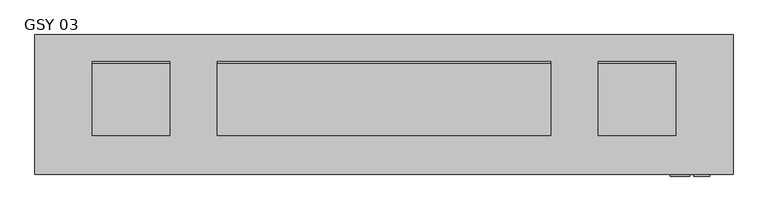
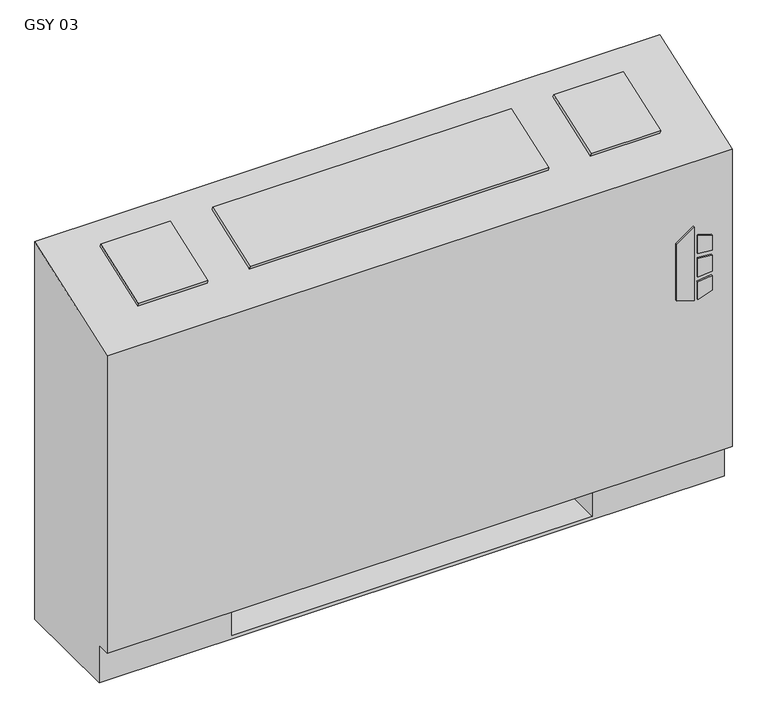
"""IFC4 building model written with IfcOpenShell, lengths in millimetres: proxy geometry, Vertical_Fan_Coil_Unit_-_GSY_-_IEC_-_2-Pipe_TS-FR_RH_2022 : GSY 03."""

import ifcopenshell
import ifcopenshell.guid

model = None  # the IFC model being written
_history = None  # IfcOwnerHistory: only IFC2X3 demands one
_inside = {}  # id of a spatial element -> (the spatial element, [elements in it])
_under = {}  # id of a project, library or spatial element -> (it, [spatial elements below it])
_declared = {}  # id of a project -> (the project, [libraries it declares])
_typed = {}  # id of a type object -> (the type object, [elements of that type])
_made_of = {}  # id of a material, layer set ... -> (it, [elements and type objects made of it])


def new_model(schema):
    """Start an empty IFC model of exactly this schema.

    Asked for "IFC4X3", IfcOpenShell would pick the latest addendum, in which some entities
    have other attributes; the version numbers below select the first issue.
    IFC2X3 requires an IfcOwnerHistory on every rooted entity: one is made here for all.
    """
    global model, _history
    if schema == "IFC4X3":
        model = ifcopenshell.file(schema_version=(4, 3, 0, 0))
    else:
        model = ifcopenshell.file(schema=schema)
    _inside.clear()
    _under.clear()
    _declared.clear()
    _typed.clear()
    _made_of.clear()
    _history = None
    if model.schema == "IFC2X3":
        org = make("IfcOrganization", Name="unknown")
        user = make(
            "IfcPersonAndOrganization",
            ThePerson=make("IfcPerson", FamilyName="unknown"),
            TheOrganization=org,
        )
        app = make(
            "IfcApplication",
            ApplicationDeveloper=org,
            Version="unknown",
            ApplicationFullName="unknown",
            ApplicationIdentifier="unknown",
        )
        _history = make(
            "IfcOwnerHistory",
            OwningUser=user,
            OwningApplication=app,
            ChangeAction="ADDED",
            CreationDate=0,
        )
    return model


def make(cls, **values):
    """One entity of the class cls with the attributes given. An attribute that is None is left unset."""
    return model.create_entity(
        cls, **{name: value for name, value in values.items() if value is not None}
    )


def rooted(cls, **values):
    """An entity with a GlobalId (a new one), such as an element, a storey or a relation."""
    return make(cls, GlobalId=ifcopenshell.guid.new(), OwnerHistory=_history, **values)


def si_unit(unit_type, name, prefix=None):
    """IfcSIUnit, for example si_unit("LENGTHUNIT", "METRE", prefix="MILLI")."""
    return make("IfcSIUnit", UnitType=unit_type, Prefix=prefix, Name=name)


def assignment(units):
    """IfcUnitAssignment: the units of a project."""
    return None if units is None else make("IfcUnitAssignment", Units=units)


def point(xyz):
    """IfcCartesianPoint."""
    return None if xyz is None else make("IfcCartesianPoint", Coordinates=xyz)


def direction(xyz):
    """IfcDirection."""
    return None if xyz is None else make("IfcDirection", DirectionRatios=xyz)


def frame(location, z_axis=None, x_axis=None):
    """IfcAxis2Placement3D, a coordinate frame: its origin and axes. An axis left out is left unset."""
    return make(
        "IfcAxis2Placement3D",
        Location=point(location),
        Axis=direction(z_axis),
        RefDirection=direction(x_axis),
    )


def frame_2d(location, x_axis=None):
    """IfcAxis2Placement2D, a coordinate frame in the plane: its origin and x axis."""
    return make(
        "IfcAxis2Placement2D", Location=point(location), RefDirection=direction(x_axis)
    )


def origin():
    """The frame at (0, 0, 0) with its axes left unset."""
    return frame((0.0, 0.0, 0.0))


def place(relative_to, where):
    """IfcLocalPlacement: puts the frame where relative to a parent placement (None: the world)."""
    return make(
        "IfcLocalPlacement", PlacementRelTo=relative_to, RelativePlacement=where
    )


def context(
    kind, dimensions, precision=None, world=None, true_north=None, identifier=None
):
    """IfcGeometricRepresentationContext, for example the 3D "Model" context."""
    return make(
        "IfcGeometricRepresentationContext",
        ContextIdentifier=identifier,
        ContextType=kind,
        CoordinateSpaceDimension=dimensions,
        Precision=precision,
        WorldCoordinateSystem=world,
        TrueNorth=true_north,
    )


def project(units=None, contexts=None):
    """IfcProject with its units and contexts."""
    return rooted(
        "IfcProject",
        Name="project",
        RepresentationContexts=contexts,
        UnitsInContext=assignment(units),
    )


def spatial(cls, under=None, at=None, **own):
    """A site, building, storey or space (cls), placed at a placement, below another one or the project."""
    s = rooted(cls, ObjectPlacement=at, **own)
    if under is not None:
        _under.setdefault(under.id(), (under, []))[1].append(s)
    return s


def polyline(points):
    """IfcPolyline through the points."""
    return make("IfcPolyline", Points=[point(p) for p in points])


def circle_curve(where, radius):
    """IfcCircle in the frame where."""
    return make("IfcCircle", Position=where, Radius=radius)


def trimmed(basis, trim1, trim2, sense, master):
    """IfcTrimmedCurve: the piece of a basis curve between two trims."""
    return make(
        "IfcTrimmedCurve",
        BasisCurve=basis,
        Trim1=trim1,
        Trim2=trim2,
        SenseAgreement=sense,
        MasterRepresentation=master,
    )


def segment(curve, same_sense, transition):
    """IfcCompositeCurveSegment."""
    return make(
        "IfcCompositeCurveSegment",
        Transition=transition,
        SameSense=same_sense,
        ParentCurve=curve,
    )


def composite_curve(segments, self_intersect=None):
    """IfcCompositeCurve: segments joined end to end."""
    return make("IfcCompositeCurve", Segments=segments, SelfIntersect=self_intersect)


def outline(outer, holes=None, kind="AREA"):
    """IfcArbitraryClosedProfileDef: a profile drawn as a closed curve; with holes, ...WithVoids."""
    if holes is None:
        return make("IfcArbitraryClosedProfileDef", ProfileType=kind, OuterCurve=outer)
    return make(
        "IfcArbitraryProfileDefWithVoids",
        ProfileType=kind,
        OuterCurve=outer,
        InnerCurves=holes,
    )


def extrude(swept, where, along, depth):
    """IfcExtrudedAreaSolid: the profile swept, set in the frame where, extruded along a direction by depth."""
    return make(
        "IfcExtrudedAreaSolid",
        SweptArea=swept,
        Position=where,
        ExtrudedDirection=direction(along),
        Depth=depth,
    )


def shape(context_of_items, identifier, shape_type, items):
    """IfcShapeRepresentation: the items that make up one representation, for example the "Body"."""
    return make(
        "IfcShapeRepresentation",
        ContextOfItems=context_of_items,
        RepresentationIdentifier=identifier,
        RepresentationType=shape_type,
        Items=items,
    )


def source(mapping_origin, context_of_items, identifier, shape_type, items):
    """IfcRepresentationMap: a shape defined once, which mapped items show again and again."""
    return make(
        "IfcRepresentationMap",
        MappingOrigin=mapping_origin,
        MappedRepresentation=shape(context_of_items, identifier, shape_type, items),
    )


def transform(
    local_origin,
    x_axis=None,
    y_axis=None,
    z_axis=None,
    scale=None,
    scale2=None,
    scale3=None,
    uniform=True,
):
    """IfcCartesianTransformationOperator3D, or its non-uniform kind. x_axis, y_axis, z_axis: its Axis1, 2, 3."""
    if uniform:
        return make(
            "IfcCartesianTransformationOperator3D",
            Axis1=direction(x_axis),
            Axis2=direction(y_axis),
            LocalOrigin=point(local_origin),
            Scale=scale,
            Axis3=direction(z_axis),
        )
    return make(
        "IfcCartesianTransformationOperator3DnonUniform",
        Axis1=direction(x_axis),
        Axis2=direction(y_axis),
        LocalOrigin=point(local_origin),
        Scale=scale,
        Axis3=direction(z_axis),
        Scale2=scale2,
        Scale3=scale3,
    )


def mapped(mapping_source, mapping_target):
    """IfcMappedItem: shows the shape of a source again, moved by a transform."""
    return make(
        "IfcMappedItem", MappingSource=mapping_source, MappingTarget=mapping_target
    )


def made_of(thing, what):
    """Note that an element or type object is made of a material, layer set ...; save() writes the relation."""
    if what is not None:
        _made_of.setdefault(what.id(), (what, []))[1].append(thing)
    return thing


def element(
    cls,
    number,
    at=None,
    inside=None,
    cuts=None,
    type_object=None,
    material=None,
    context=None,
    identifier="Body",
    shape_type=None,
    held_by="IfcProductDefinitionShape",
    body=None,
    shapes=None,
    **own,
):
    """One element of the class cls, such as IfcWall. Its Tag is "e" and its number.

    at: its placement. inside: the storey or other place that contains it. cuts: it is an
    opening in that element (IfcRelVoidsElement). A single representation is given by context,
    identifier, shape_type and body (its items); several are given by shapes. held_by: the class
    of the entity that holds the representations. save() writes the other relations.
    """
    e = rooted(cls, Tag="e%d" % number, ObjectPlacement=at, **own)
    if body is not None:
        shapes = [shape(context, identifier, shape_type, body)]
    if shapes is not None:
        e.Representation = make(held_by, Representations=shapes)
    if inside is not None:
        _inside.setdefault(inside.id(), (inside, []))[1].append(e)
    if cuts is not None:
        rooted(
            "IfcRelVoidsElement", RelatingBuildingElement=cuts, RelatedOpeningElement=e
        )
    if type_object is not None:
        _typed.setdefault(type_object.id(), (type_object, []))[1].append(e)
    return made_of(e, material)


def aggregate(whole, parts):
    """IfcRelAggregates: a whole, such as a stair, and the parts it consists of."""
    return rooted("IfcRelAggregates", RelatingObject=whole, RelatedObjects=parts)


def save(model, path):
    """Write the relations noted so far, then the file.

    IfcRelAggregates (storeys below a building ...), IfcRelContainedInSpatialStructure (elements
    in a storey), IfcRelDefinesByType, IfcRelAssociatesMaterial and IfcRelDeclares: one each for
    every whole, place, type object, material and project.
    """
    for whole, parts in _under.values():
        aggregate(whole, parts)
    for where, things in _inside.values():
        rooted(
            "IfcRelContainedInSpatialStructure",
            RelatedElements=things,
            RelatingStructure=where,
        )
    for kind, things in _typed.values():
        rooted("IfcRelDefinesByType", RelatedObjects=things, RelatingType=kind)
    for what, things in _made_of.values():
        rooted("IfcRelAssociatesMaterial", RelatedObjects=things, RelatingMaterial=what)
    for by, libraries in _declared.values():
        rooted("IfcRelDeclares", RelatingContext=by, RelatedDefinitions=libraries)
    model.write(path)


def plane_surface(at):
    """IfcPlane: the flat surface through the origin of the frame at, square to its z axis."""
    return make("IfcPlane", Position=at)


def revolved_surface(curve, axis_point, axis_direction):
    """IfcSurfaceOfRevolution: the curve turned about the line through axis_point along axis_direction."""
    return make(
        "IfcSurfaceOfRevolution",
        SweptCurve=make("IfcArbitraryOpenProfileDef", ProfileType="CURVE", Curve=curve),
        AxisPosition=make("IfcAxis1Placement", Location=point(axis_point), Axis=direction(axis_direction)),
    )


def advanced_brep(points, edges, surfaces, faces):
    """IfcAdvancedBrep: a solid bounded by faces that lie on surfaces and meet in shared edges.

    An edge is (start, end): straight between two places in points (the first is 0);
    or (start, end, curve); or (start, end, curve, False) where it runs against its curve.
    A face is (place in surfaces, loops), or (place, loops, False) where it looks against
    its surface's normal. A loop lists edges by number (the first is 1), with a minus sign
    where the edge is run from its end to its start. The first loop is the outer one.
    """
    corners = [point(p) for p in points]
    vertices = [make("IfcVertexPoint", VertexGeometry=c) for c in corners]
    made = []
    for start, end, *more in edges:
        made.append(
            make(
                "IfcEdgeCurve",
                EdgeStart=vertices[start],
                EdgeEnd=vertices[end],
                EdgeGeometry=more[0] if more else make("IfcPolyline", Points=[corners[start], corners[end]]),
                SameSense=more[1] if len(more) > 1 else True,
            )
        )
    hull = []
    for where, loops, *sense in faces:
        bounds = []
        for j, loop in enumerate(loops):
            ring = [make("IfcOrientedEdge", EdgeElement=made[abs(k) - 1], Orientation=k > 0) for k in loop]
            bounds.append(
                make(
                    "IfcFaceOuterBound" if j == 0 else "IfcFaceBound",
                    Bound=make("IfcEdgeLoop", EdgeList=ring),
                    Orientation=True,
                )
            )
        hull.append(make("IfcAdvancedFace", Bounds=bounds, FaceSurface=surfaces[where], SameSense=sense[0] if sense else True))
    return make("IfcAdvancedBrep", Outer=make("IfcClosedShell", CfsFaces=hull))


def gsy_03_d9d8826f(model_context):
    return source(origin(), model_context, "Body", "SolidModel", [
        extrude(outline(polyline([(391.6086829, 620.7868862), (381.6606126, 652.9602728), (523.831537, 652.9602728), (500.8095309, 620.7868862), (391.6086829, 620.7868862)])), frame((0.0, 12.7, 0.0), z_axis=(0.0, 1.0, 0.0), x_axis=(0.0, 0.0, 1.0)), (0.0, 0.0, 1.0), 3.175),
        extrude(outline(polyline([(470.6079683, 659.7186058), (467.4055757, 685.8), (496.6344168, 685.8), (504.6988318, 659.7186058), (470.6079683, 659.7186058)])), frame((0.0, 12.7, 0.0), z_axis=(0.0, 1.0, 0.0), x_axis=(0.0, 0.0, 1.0)), (0.0, 0.0, 1.0), 3.175),
        extrude(outline(polyline([(418.7444414, 685.8), (415.0789404, 659.7186058), (381.6606126, 659.7186058), (390.2948498, 685.8), (418.7444414, 685.8)])), frame((0.0, 12.7, 0.0), z_axis=(0.0, 1.0, 0.0), x_axis=(0.0, 0.0, 1.0)), (0.0, 0.0, 1.0), 3.175),
        extrude(outline(polyline([(458.0596028, 685.8), (460.3414292, 659.7186058), (424.4038806, 659.7186058), (427.1451456, 685.8), (458.0596028, 685.8)])), frame((0.0, 12.7, 0.0), z_axis=(0.0, 1.0, 0.0), x_axis=(0.0, 0.0, 1.0)), (0.0, 0.0, 1.0), 3.175),
        extrude(outline(polyline([(0.0, -126.2347031), (0.0, 0.0), (127.0, 0.0), (127.0, -126.2347031), (0.0, -126.2347031)])), frame((-324.993, 200.4217127, 714.3418685), z_axis=(0.0, -0.33964446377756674, 0.9405538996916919), x_axis=(1.0, 0.0, 0.0)), (0.0, 0.0, 1.0), 6.35),
        extrude(outline(polyline([(0.0, -126.2347031), (0.0, 0.0), (546.1, 0.0), (546.1, -126.2347031), (0.0, -126.2347031)])), frame((425.45, 81.6911704, 671.4669504), z_axis=(0.0, -0.3396444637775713, 0.9405538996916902), x_axis=(-1.0, 0.0, 0.0)), (0.0, 0.0, 1.0), 6.35),
        extrude(outline(polyline([(0.0, -126.2347031), (0.0, 0.0), (127.0, 0.0), (127.0, -126.2347031), (0.0, -126.2347031)])), frame((629.793, 81.6911704, 671.4669504), z_axis=(0.0, -0.3396444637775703, 0.9405538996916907), x_axis=(-1.0, 0.0, 0.0)), (0.0, 0.0, 1.0), 6.35),
        extrude(outline(polyline([(-298.45, 81.534), (-298.45, 223.266), (-127.0, 223.266), (-127.0, 81.534), (-298.45, 81.534)])), frame((0.0, 0.0, 327.025), z_axis=(0.0, 0.0, 1.0), x_axis=(1.0, 0.0, 0.0)), (0.0, 0.0, 1.0), 260.35),
        extrude(outline(composite_curve([segment(trimmed(circle_curve(frame_2d((80.645, 397.002)), 7.9375), [point((80.645, 404.9395))], [point((80.645, 389.0645))], False, "CARTESIAN"), True, "CONTINUOUS"), segment(trimmed(circle_curve(frame_2d((80.645, 397.002)), 7.9375), [point((80.645, 389.0645))], [point((80.645, 404.9395))], False, "CARTESIAN"), True, "CONTINUOUS")], self_intersect=False)), frame((482.6, 0.0, 0.0), z_axis=(1.0, 0.0, 0.0), x_axis=(0.0, 1.0, 0.0)), (0.0, 0.0, 1.0), 50.8),
        extrude(outline(composite_curve([segment(trimmed(circle_curve(frame_2d((156.8958, 535.8892)), 7.9375), [point((156.8958, 543.8267))], [point((156.8958, 527.9517))], False, "CARTESIAN"), True, "CONTINUOUS"), segment(trimmed(circle_curve(frame_2d((156.8958, 535.8892)), 7.9375), [point((156.8958, 527.9517))], [point((156.8958, 543.8267))], False, "CARTESIAN"), True, "CONTINUOUS")], self_intersect=False)), frame((482.6, 0.0, 0.0), z_axis=(1.0, 0.0, 0.0), x_axis=(0.0, 1.0, 0.0)), (0.0, 0.0, 1.0), 50.8),
        advanced_brep(
        [(-419.1, 244.475, 0.0), (723.9, 244.475, 0.0), (723.9, 41.275, 0.0), (-419.1, 41.275, 0.0), (-419.1, 244.475, 730.25), (723.9, 244.475, 730.25), (482.6, 244.475, 73.025), (711.2, 244.475, 73.025), (711.2, 244.475, 654.05), (482.6, 244.475, 654.05), (482.6, 244.475, 414.8650565), (511.175, 244.475, 414.8650565), (511.175, 244.475, 385.2349435), (482.6, 244.475, 385.2349435), (482.6, 244.475, 287.3375), (511.175, 244.475, 287.3375), (511.175, 244.475, 258.7625), (482.6, 244.475, 258.7625), (482.6, 244.475, 141.2875), (511.175, 244.475, 141.2875), (511.175, 244.475, 112.7125), (482.6, 244.475, 112.7125), (-177.8, 244.475, 654.05), (-406.4, 244.475, 654.05), (-406.4, 244.475, 73.025), (-177.8, 244.475, 73.025), (-177.8, 244.475, 112.7125), (-206.375, 244.475, 112.7125), (-206.375, 244.475, 141.2875), (-177.8, 244.475, 141.2875), (-177.8, 244.475, 258.7625), (-206.375, 244.475, 258.7625), (-206.375, 244.475, 287.3375), (-177.8, 244.475, 287.3375), (-177.8, 244.475, 385.2349435), (-206.375, 244.475, 385.2349435), (-206.375, 244.475, 414.8650565), (-177.8, 244.475, 414.8650565), (500.8626, 244.475, 127.0), (489.7374, 244.475, 127.0), (500.8626, 244.475, 400.05), (489.7374, 244.475, 400.05), (500.8626, 244.475, 273.05), (489.7374, 244.475, 273.05), (-184.9374, 244.475, 127.0), (-196.0626, 244.475, 127.0), (-184.9374, 244.475, 273.05), (-196.0626, 244.475, 273.05), (-184.9374, 244.475, 400.05), (-196.0626, 244.475, 400.05), (-419.1, 41.275, 73.025), (-419.1, 15.875, 73.025), (-419.1, 15.875, 647.7), (723.9, 15.875, 73.025), (723.9, 15.875, 647.7), (723.9, 41.275, 73.025), (-177.8, 41.275, 73.025), (-177.8, 225.425, 73.025), (482.6, 225.425, 73.025), (482.6, 41.275, 73.025), (482.6, 41.275, 6.35), (-177.8, 41.275, 6.35), (482.6, 41.275, 654.05), (711.2, 41.275, 654.05), (711.2, 41.275, 73.025), (482.6, 41.275, 73.025), (-177.8, 41.275, 654.05), (-177.8, 41.275, 73.025), (-406.4, 41.275, 73.025), (-406.4, 41.275, 654.05), (482.6, 225.425, 73.025), (482.6, 238.125, 112.7125), (482.6, 238.125, 141.2875), (482.6, 238.125, 258.7625), (482.6, 238.125, 287.3375), (482.6, 238.125, 385.2349435), (482.6, 238.125, 414.8650565), (-177.8, 225.425, 73.025), (-177.8, 238.125, 414.8650565), (-177.8, 238.125, 385.2349435), (-177.8, 238.125, 287.3375), (-177.8, 238.125, 258.7625), (-177.8, 238.125, 141.2875), (-177.8, 238.125, 112.7125), (-177.8, 225.425, 6.35), (482.6, 225.425, 6.35), (511.175, 238.125, 112.7125), (511.175, 238.125, 141.2875), (489.7374, 238.125, 127.0), (500.8626, 238.125, 127.0), (511.175, 238.125, 258.7625), (511.175, 238.125, 287.3375), (489.7374, 238.125, 273.05), (500.8626, 238.125, 273.05), (511.175, 238.125, 385.2349435), (511.175, 238.125, 414.8650565), (489.7374, 238.125, 400.05), (500.8626, 238.125, 400.05), (-206.375, 238.125, 141.2875), (-206.375, 238.125, 112.7125), (-196.0626, 238.125, 127.0), (-184.9374, 238.125, 127.0), (-206.375, 238.125, 287.3375), (-206.375, 238.125, 258.7625), (-196.0626, 238.125, 273.05), (-184.9374, 238.125, 273.05), (-206.375, 238.125, 414.8650565), (-206.375, 238.125, 385.2349435), (-196.0626, 238.125, 400.05), (-184.9374, 238.125, 400.05)],
        [
            (0, 1),
            (1, 2),
            (2, 3),
            (3, 0),
            (0, 4),
            (4, 5),
            (5, 1),
            (6, 7),
            (7, 8),
            (8, 9),
            (9, 10),
            (10, 11),
            (11, 12),
            (12, 13),
            (13, 14),
            (14, 15),
            (15, 16),
            (16, 17),
            (17, 18),
            (18, 19),
            (19, 20),
            (20, 21),
            (21, 6),
            (22, 23),
            (23, 24),
            (24, 25),
            (25, 26),
            (26, 27),
            (27, 28),
            (28, 29),
            (29, 30),
            (30, 31),
            (31, 32),
            (32, 33),
            (33, 34),
            (34, 35),
            (35, 36),
            (36, 37),
            (37, 22),
            (38, 39, circle_curve(frame((495.3, 244.475, 127.0), z_axis=(0.0, -1.0, 0.0), x_axis=(-1.0, 0.0, 0.0)), 5.5626)),
            (39, 38, circle_curve(frame((495.3, 244.475, 127.0), z_axis=(0.0, -1.0, 0.0), x_axis=(-1.0, 0.0, 0.0)), 5.5626)),
            (40, 41, circle_curve(frame((495.3, 244.475, 400.05), z_axis=(0.0, -1.0, 0.0), x_axis=(-1.0, 0.0, 0.0)), 5.5626)),
            (41, 40, circle_curve(frame((495.3, 244.475, 400.05), z_axis=(0.0, -1.0, 0.0), x_axis=(-1.0, 0.0, 0.0)), 5.5626)),
            (42, 43, circle_curve(frame((495.3, 244.475, 273.05), z_axis=(0.0, -1.0, 0.0), x_axis=(-1.0, 0.0, 0.0)), 5.5626)),
            (43, 42, circle_curve(frame((495.3, 244.475, 273.05), z_axis=(0.0, -1.0, 0.0), x_axis=(-1.0, 0.0, 0.0)), 5.5626)),
            (44, 45, circle_curve(frame((-190.5, 244.475, 127.0), z_axis=(0.0, -1.0, 0.0), x_axis=(-1.0, 0.0, 0.0)), 5.5626)),
            (45, 44, circle_curve(frame((-190.5, 244.475, 127.0), z_axis=(0.0, -1.0, 0.0), x_axis=(-1.0, 0.0, 0.0)), 5.5626)),
            (46, 47, circle_curve(frame((-190.5, 244.475, 273.05), z_axis=(0.0, -1.0, 0.0), x_axis=(-1.0, 0.0, 0.0)), 5.5626)),
            (47, 46, circle_curve(frame((-190.5, 244.475, 273.05), z_axis=(0.0, -1.0, 0.0), x_axis=(-1.0, 0.0, 0.0)), 5.5626)),
            (48, 49, circle_curve(frame((-190.5, 244.475, 400.05), z_axis=(0.0, -1.0, 0.0), x_axis=(-1.0, 0.0, 0.0)), 5.5626)),
            (49, 48, circle_curve(frame((-190.5, 244.475, 400.05), z_axis=(0.0, -1.0, 0.0), x_axis=(-1.0, 0.0, 0.0)), 5.5626)),
            (3, 50),
            (50, 51),
            (51, 52),
            (52, 4),
            (51, 53),
            (53, 54),
            (54, 52),
            (5, 54),
            (53, 55),
            (55, 2),
            (50, 56),
            (56, 57),
            (57, 58),
            (58, 59),
            (59, 55),
            (59, 60),
            (60, 61),
            (61, 56),
            (62, 63),
            (63, 64),
            (64, 65),
            (65, 62),
            (66, 67),
            (67, 68),
            (68, 69),
            (69, 66),
            (65, 70),
            (70, 6),
            (21, 71),
            (71, 72),
            (72, 18),
            (17, 73),
            (73, 74),
            (74, 14),
            (13, 75),
            (75, 76),
            (76, 10),
            (9, 62),
            (64, 7),
            (63, 8),
            (69, 23),
            (22, 66),
            (68, 24),
            (67, 77),
            (77, 25),
            (37, 78),
            (78, 79),
            (79, 34),
            (33, 80),
            (80, 81),
            (81, 30),
            (29, 82),
            (82, 83),
            (83, 26),
            (57, 84),
            (84, 85),
            (85, 58),
            (85, 60),
            (84, 61),
            (71, 86),
            (86, 87),
            (87, 72),
            (88, 89, circle_curve(frame((495.3, 238.125, 127.0), z_axis=(0.0, 1.0, 0.0), x_axis=(-1.0, 0.0, 0.0)), 5.5626)),
            (89, 88, circle_curve(frame((495.3, 238.125, 127.0), z_axis=(0.0, 1.0, 0.0), x_axis=(-1.0, 0.0, 0.0)), 5.5626)),
            (73, 90),
            (90, 91),
            (91, 74),
            (92, 93, circle_curve(frame((495.3, 238.125, 273.05), z_axis=(0.0, 1.0, 0.0), x_axis=(-1.0, 0.0, 0.0)), 5.5626)),
            (93, 92, circle_curve(frame((495.3, 238.125, 273.05), z_axis=(0.0, 1.0, 0.0), x_axis=(-1.0, 0.0, 0.0)), 5.5626)),
            (75, 94),
            (94, 95),
            (95, 76),
            (96, 97, circle_curve(frame((495.3, 238.125, 400.05), z_axis=(0.0, 1.0, 0.0), x_axis=(-1.0, 0.0, 0.0)), 5.5626)),
            (97, 96, circle_curve(frame((495.3, 238.125, 400.05), z_axis=(0.0, 1.0, 0.0), x_axis=(-1.0, 0.0, 0.0)), 5.5626)),
            (98, 99),
            (99, 83),
            (82, 98),
            (100, 101, circle_curve(frame((-190.5, 238.125, 127.0), z_axis=(0.0, 1.0, 0.0), x_axis=(-1.0, 0.0, 0.0)), 5.5626)),
            (101, 100, circle_curve(frame((-190.5, 238.125, 127.0), z_axis=(0.0, 1.0, 0.0), x_axis=(-1.0, 0.0, 0.0)), 5.5626)),
            (102, 103),
            (103, 81),
            (80, 102),
            (104, 105, circle_curve(frame((-190.5, 238.125, 273.05), z_axis=(0.0, 1.0, 0.0), x_axis=(-1.0, 0.0, 0.0)), 5.5626)),
            (105, 104, circle_curve(frame((-190.5, 238.125, 273.05), z_axis=(0.0, 1.0, 0.0), x_axis=(-1.0, 0.0, 0.0)), 5.5626)),
            (106, 107),
            (107, 79),
            (78, 106),
            (108, 109, circle_curve(frame((-190.5, 238.125, 400.05), z_axis=(0.0, 1.0, 0.0), x_axis=(-1.0, 0.0, 0.0)), 5.5626)),
            (109, 108, circle_curve(frame((-190.5, 238.125, 400.05), z_axis=(0.0, 1.0, 0.0), x_axis=(-1.0, 0.0, 0.0)), 5.5626)),
            (87, 19),
            (86, 20),
            (91, 15),
            (90, 16),
            (95, 11),
            (94, 12),
            (28, 98),
            (99, 27),
            (32, 102),
            (103, 31),
            (36, 106),
            (107, 35),
            (88, 39),
            (38, 89),
            (96, 41),
            (40, 97),
            (92, 43),
            (42, 93),
            (100, 45),
            (44, 101),
            (104, 47),
            (46, 105),
            (108, 49),
            (48, 109),
        ],
        [
            plane_surface(frame((-419.1, 244.475, 0.0), z_axis=(0.0, 0.0, -1.0), x_axis=(1.0, 0.0, 0.0))),
            plane_surface(frame((723.9, 244.475, 730.25), z_axis=(0.0, 1.0, 0.0), x_axis=(0.0, 0.0, -1.0))),
            plane_surface(frame((-419.1, 244.475, 730.25), z_axis=(-1.0, 0.0, 0.0), x_axis=(0.0, 0.0, -1.0))),
            plane_surface(frame((-419.1, 15.875, 730.25), z_axis=(0.0, -1.0, 0.0), x_axis=(0.0, 0.0, -1.0))),
            plane_surface(frame((723.9, 15.875, 730.25), z_axis=(1.0, 0.0, 0.0), x_axis=(0.0, 0.0, -1.0))),
            plane_surface(frame((-419.1, 15.875, 73.025), z_axis=(0.0, 0.0, -1.0), x_axis=(1.0, 0.0, 0.0))),
            plane_surface(frame((-419.1, 41.275, 73.025), z_axis=(0.0, -1.0, 0.0), x_axis=(1.0, 0.0, 0.0))),
            plane_surface(frame((482.6, 41.275, 654.05), z_axis=(0.0, 1.0, 0.0), x_axis=(0.0, 0.0, -1.0))),
            plane_surface(frame((482.6, 41.275, 654.05), z_axis=(1.0, 0.0, 0.0), x_axis=(0.0, 1.0, 0.0))),
            plane_surface(frame((482.6, 41.275, 73.025), z_axis=(0.0, 0.0, 1.0), x_axis=(0.0, 1.0, 0.0))),
            plane_surface(frame((711.2, 41.275, 73.025), z_axis=(-1.0, 0.0, 0.0), x_axis=(0.0, 1.0, 0.0))),
            plane_surface(frame((711.2, 41.275, 654.05), z_axis=(0.0, 0.0, -1.0), x_axis=(0.0, 1.0, 0.0))),
            plane_surface(frame((-177.8, 41.275, 654.05), z_axis=(0.0, 0.0, -1.0), x_axis=(0.0, 1.0, 0.0))),
            plane_surface(frame((-406.4, 41.275, 654.05), z_axis=(1.0, 0.0, 0.0), x_axis=(0.0, 1.0, 0.0))),
            plane_surface(frame((-406.4, 41.275, 73.025), z_axis=(0.0, 0.0, 1.0), x_axis=(0.0, 1.0, 0.0))),
            plane_surface(frame((-177.8, 41.275, 73.025), z_axis=(-1.0, 0.0, 0.0), x_axis=(0.0, 1.0, 0.0))),
            plane_surface(frame((482.6, 225.425, 73.025), z_axis=(0.0, -1.0, 0.0), x_axis=(0.0, 0.0, -1.0))),
            plane_surface(frame((482.6, 225.425, 73.025), z_axis=(-1.0, 0.0, 0.0), x_axis=(0.0, -1.0, 0.0))),
            plane_surface(frame((482.6, 225.425, 6.35), z_axis=(0.0, 0.0, 1.0), x_axis=(0.0, -1.0, 0.0))),
            plane_surface(frame((-177.8, 225.425, 6.35), z_axis=(1.0, 0.0, 0.0), x_axis=(0.0, -1.0, 0.0))),
            plane_surface(frame((511.175, 238.125, 141.2875), z_axis=(0.0, -1.0, 0.0), x_axis=(-1.0, 0.0, 0.0))),
            plane_surface(frame((482.6, 244.475, 141.2875), z_axis=(0.0, 0.0, 1.0), x_axis=(0.0, -1.0, 0.0))),
            plane_surface(frame((511.175, 244.475, 141.2875), z_axis=(1.0, 0.0, 0.0), x_axis=(0.0, -1.0, 0.0))),
            plane_surface(frame((511.175, 244.475, 112.7125), z_axis=(0.0, 0.0, -1.0), x_axis=(0.0, -1.0, 0.0))),
            plane_surface(frame((482.6, 244.475, 287.3375), z_axis=(0.0, 0.0, 1.0), x_axis=(0.0, -1.0, 0.0))),
            plane_surface(frame((511.175, 244.475, 287.3375), z_axis=(1.0, 0.0, 0.0), x_axis=(0.0, -1.0, 0.0))),
            plane_surface(frame((511.175, 244.475, 258.7625), z_axis=(0.0, 0.0, -1.0), x_axis=(0.0, -1.0, 0.0))),
            plane_surface(frame((482.6, 244.475, 414.8650565), z_axis=(0.0, 0.0, 1.0), x_axis=(0.0, -1.0, 0.0))),
            plane_surface(frame((511.175, 244.475, 414.8650565), z_axis=(1.0, 0.0, 0.0), x_axis=(0.0, -1.0, 0.0))),
            plane_surface(frame((511.175, 244.475, 385.2349435), z_axis=(0.0, 0.0, -1.0), x_axis=(0.0, -1.0, 0.0))),
            plane_surface(frame((-206.375, 244.475, 141.2875), z_axis=(0.0, 0.0, 1.0), x_axis=(0.0, -1.0, 0.0))),
            plane_surface(frame((-177.8, 244.475, 112.7125), z_axis=(0.0, 0.0, -1.0), x_axis=(0.0, -1.0, 0.0))),
            plane_surface(frame((-206.375, 244.475, 112.7125), z_axis=(-1.0, 0.0, 0.0), x_axis=(0.0, -1.0, 0.0))),
            plane_surface(frame((-206.375, 244.475, 287.3375), z_axis=(0.0, 0.0, 1.0), x_axis=(0.0, -1.0, 0.0))),
            plane_surface(frame((-177.8, 244.475, 258.7625), z_axis=(0.0, 0.0, -1.0), x_axis=(0.0, -1.0, 0.0))),
            plane_surface(frame((-206.375, 244.475, 258.7625), z_axis=(-1.0, 0.0, 0.0), x_axis=(0.0, -1.0, 0.0))),
            plane_surface(frame((-206.375, 244.475, 414.8650565), z_axis=(0.0, 0.0, 1.0), x_axis=(0.0, -1.0, 0.0))),
            plane_surface(frame((-177.8, 244.475, 385.2349435), z_axis=(0.0, 0.0, -1.0), x_axis=(0.0, -1.0, 0.0))),
            plane_surface(frame((-206.375, 244.475, 385.2349435), z_axis=(-1.0, 0.0, 0.0), x_axis=(0.0, -1.0, 0.0))),
            revolved_surface(polyline([(489.73740000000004, 238.125, 127.0), (489.73740000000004, 244.475, 127.0)]), (495.3, 244.475, 127.0), (0.0, -1.0, 0.0)),
            revolved_surface(polyline([(489.73740000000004, 238.125, 400.05), (489.73740000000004, 244.475, 400.05)]), (495.3, 244.475, 400.05), (0.0, -1.0, 0.0)),
            revolved_surface(polyline([(489.73740000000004, 238.125, 273.05), (489.73740000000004, 244.475, 273.05)]), (495.3, 244.475, 273.05), (0.0, -1.0, 0.0)),
            revolved_surface(polyline([(-196.0626, 238.125, 127.0), (-196.0626, 244.475, 127.0)]), (-190.5, 244.475, 127.0), (0.0, -1.0, 0.0)),
            revolved_surface(polyline([(-196.0626, 238.125, 273.05), (-196.0626, 244.475, 273.05)]), (-190.5, 244.475, 273.05), (0.0, -1.0, 0.0)),
            revolved_surface(polyline([(-196.0626, 238.125, 400.05), (-196.0626, 244.475, 400.05)]), (-190.5, 244.475, 400.05), (0.0, -1.0, 0.0)),
            plane_surface(frame((-419.1, 244.475, 730.25), z_axis=(0.0, -0.33964446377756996, 0.9405538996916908), x_axis=(1.0, 0.0, 0.0))),
        ],
        [
            (0, [[1, 2, 3, 4]]),
            (1, [[-1, 5, 6, 7], [8, 9, 10, 11, 12, 13, 14, 15, 16, 17, 18, 19, 20, 21, 22, 23], [24, 25, 26, 27, 28, 29, 30, 31, 32, 33, 34, 35, 36, 37, 38, 39], [40, 41], [42, 43], [44, 45], [46, 47], [48, 49], [50, 51]]),
            (2, [[-5, -4, 52, 53, 54, 55]]),
            (3, [[56, 57, 58, -54]]),
            (4, [[-7, 59, -57, 60, 61, -2]]),
            (5, [[-53, 62, 63, 64, 65, 66, -60, -56]]),
            (6, [[-3, -61, -66, 67, 68, 69, -62, -52]]),
            (7, [[70, 71, 72, 73]]),
            (7, [[74, 75, 76, 77]]),
            (8, [[-73, 78, 79, -23, 80, 81, 82, -19, 83, 84, 85, -15, 86, 87, 88, -11, 89]]),
            (9, [[-72, 90, -8, -79, -78]]),
            (10, [[-71, 91, -9, -90]]),
            (11, [[-70, -89, -10, -91]]),
            (12, [[-77, 92, -24, 93]]),
            (13, [[-76, 94, -25, -92]]),
            (14, [[-75, 95, 96, -26, -94]]),
            (15, [[-74, -93, -39, 97, 98, 99, -35, 100, 101, 102, -31, 103, 104, 105, -27, -96, -95]]),
            (16, [[-64, 106, 107, 108]]),
            (17, [[-108, 109, -67, -65]]),
            (18, [[-107, 110, -68, -109]]),
            (19, [[-106, -63, -69, -110]]),
            (20, [[111, 112, 113, -81], [114, 115]]),
            (20, [[116, 117, 118, -84], [119, 120]]),
            (20, [[121, 122, 123, -87], [124, 125]]),
            (20, [[126, 127, -104, 128], [129, 130]]),
            (20, [[131, 132, -101, 133], [134, 135]]),
            (20, [[136, 137, -98, 138], [139, 140]]),
            (21, [[-113, 141, -20, -82]]),
            (22, [[-112, 142, -21, -141]]),
            (23, [[-111, -80, -22, -142]]),
            (24, [[-118, 143, -16, -85]]),
            (25, [[-117, 144, -17, -143]]),
            (26, [[-116, -83, -18, -144]]),
            (27, [[-123, 145, -12, -88]]),
            (28, [[-122, 146, -13, -145]]),
            (29, [[-121, -86, -14, -146]]),
            (30, [[-128, -103, -30, 147]]),
            (31, [[-127, 148, -28, -105]]),
            (32, [[-126, -147, -29, -148]]),
            (33, [[-133, -100, -34, 149]]),
            (34, [[-132, 150, -32, -102]]),
            (35, [[-131, -149, -33, -150]]),
            (36, [[-138, -97, -38, 151]]),
            (37, [[-137, 152, -36, -99]]),
            (38, [[-136, -151, -37, -152]]),
            (39, [[153, -40, 154, -114]]),
            (39, [[-153, -115, -154, -41]]),
            (40, [[155, -42, 156, -124]]),
            (40, [[-155, -125, -156, -43]]),
            (41, [[157, -44, 158, -119]]),
            (41, [[-157, -120, -158, -45]]),
            (42, [[159, -46, 160, -129]]),
            (42, [[-159, -130, -160, -47]]),
            (43, [[161, -48, 162, -134]]),
            (43, [[-161, -135, -162, -49]]),
            (44, [[163, -50, 164, -139]]),
            (44, [[-163, -140, -164, -51]]),
            (45, [[-6, -55, -58, -59]]),
        ],
    ),
    ])


if __name__ == "__main__":
    model = new_model("IFC4")
    model_context = context("Model", 3, world=origin())
    ifc_project = project(units=[si_unit("LENGTHUNIT", "METRE", prefix="MILLI")], contexts=[model_context])
    site = spatial("IfcSite", under=ifc_project)
    building = spatial("IfcBuilding", under=site)
    placement = place(None, origin())
    gsy_03_shape = gsy_03_d9d8826f(model_context)
    element("IfcBuildingElementProxy", 1, Name="Vertical_Fan_Coil_Unit_-_GSY_-_IEC_-_2-Pipe_TS-FR_RH_2022 : GSY 03", ObjectType="Vertical_Fan_Coil_Unit_-_GSY_-_IEC_-_2-Pipe_TS-FR_RH_2022 : GSY 03", at=placement, inside=building, context=model_context, shape_type="MappedRepresentation", body=[
        mapped(gsy_03_shape, transform((0.0, 0.0, 0.0), x_axis=(1.0, 0.0, 0.0), y_axis=(0.0, 1.0, 0.0), z_axis=(0.0, 0.0, 1.0))),
    ])
    save(model, "model.ifc")
